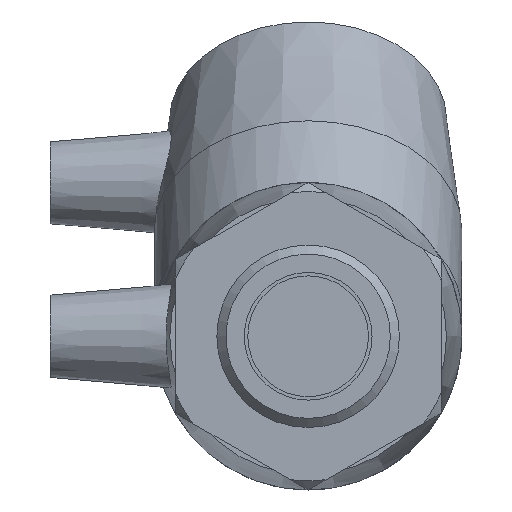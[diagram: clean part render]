
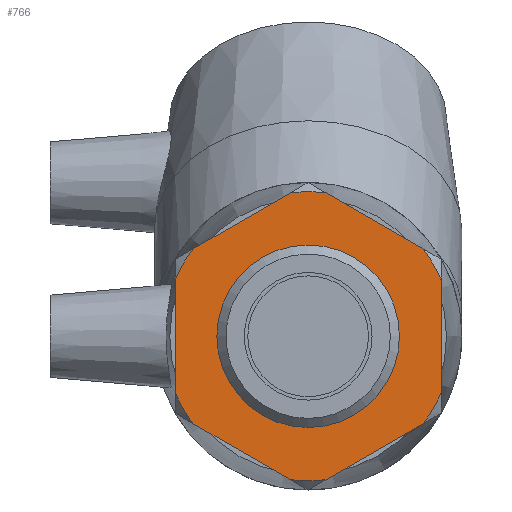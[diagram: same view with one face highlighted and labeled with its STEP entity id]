
A CAD part, left-side view. The second image highlights one B-rep face of the part: STEP entity #766.
In plain terms, the highlighted planar face has unit normal (-1, 0, 0).
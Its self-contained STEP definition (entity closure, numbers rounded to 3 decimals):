
#20=LINE('',#1198,#39);
#24=LINE('',#1222,#43);
#27=LINE('',#1244,#46);
#30=LINE('',#1266,#49);
#35=LINE('',#1303,#54);
#37=LINE('',#1322,#56);
#39=VECTOR('',#952,20.469);
#43=VECTOR('',#958,20.469);
#46=VECTOR('',#963,20.469);
#49=VECTOR('',#968,20.469);
#54=VECTOR('',#975,20.469);
#56=VECTOR('',#979,20.469);
#105=PLANE('',#835);
#126=FACE_BOUND('',#235,.T.);
#170=FACE_OUTER_BOUND('',#234,.T.);
#234=EDGE_LOOP('',(#598,#599,#600,#601,#602,#603,#604,#605,#606,#607,#608,
#609));
#235=EDGE_LOOP('',(#610));
#324=CIRCLE('',#828,16.625);
#325=CIRCLE('',#836,26.32);
#326=CIRCLE('',#837,26.32);
#327=CIRCLE('',#838,26.32);
#328=CIRCLE('',#839,26.32);
#329=CIRCLE('',#840,26.32);
#330=CIRCLE('',#841,26.32);
#374=VERTEX_POINT('',#1189);
#375=VERTEX_POINT('',#1192);
#377=VERTEX_POINT('',#1197);
#383=VERTEX_POINT('',#1217);
#384=VERTEX_POINT('',#1221);
#389=VERTEX_POINT('',#1239);
#390=VERTEX_POINT('',#1243);
#395=VERTEX_POINT('',#1261);
#396=VERTEX_POINT('',#1265);
#402=VERTEX_POINT('',#1284);
#406=VERTEX_POINT('',#1299);
#407=VERTEX_POINT('',#1305);
#410=VERTEX_POINT('',#1318);
#450=EDGE_CURVE('',#374,#374,#324,.T.);
#452=EDGE_CURVE('',#377,#375,#20,.T.);
#460=EDGE_CURVE('',#384,#383,#24,.T.);
#467=EDGE_CURVE('',#390,#389,#27,.T.);
#474=EDGE_CURVE('',#396,#395,#30,.T.);
#486=EDGE_CURVE('',#402,#406,#35,.T.);
#492=EDGE_CURVE('',#407,#410,#37,.T.);
#493=EDGE_CURVE('',#402,#410,#325,.T.);
#494=EDGE_CURVE('',#396,#406,#326,.T.);
#495=EDGE_CURVE('',#390,#395,#327,.T.);
#496=EDGE_CURVE('',#384,#389,#328,.T.);
#497=EDGE_CURVE('',#377,#383,#329,.T.);
#498=EDGE_CURVE('',#407,#375,#330,.T.);
#598=ORIENTED_EDGE('',*,*,#492,.T.);
#599=ORIENTED_EDGE('',*,*,#493,.F.);
#600=ORIENTED_EDGE('',*,*,#486,.T.);
#601=ORIENTED_EDGE('',*,*,#494,.F.);
#602=ORIENTED_EDGE('',*,*,#474,.T.);
#603=ORIENTED_EDGE('',*,*,#495,.F.);
#604=ORIENTED_EDGE('',*,*,#467,.T.);
#605=ORIENTED_EDGE('',*,*,#496,.F.);
#606=ORIENTED_EDGE('',*,*,#460,.T.);
#607=ORIENTED_EDGE('',*,*,#497,.F.);
#608=ORIENTED_EDGE('',*,*,#452,.T.);
#609=ORIENTED_EDGE('',*,*,#498,.F.);
#610=ORIENTED_EDGE('',*,*,#450,.T.);
#766=ADVANCED_FACE('',(#170,#126),#105,.T.);
#828=AXIS2_PLACEMENT_3D('',#1190,#948,#949);
#835=AXIS2_PLACEMENT_3D('',#1323,#980,#981);
#836=AXIS2_PLACEMENT_3D('',#1324,#982,#983);
#837=AXIS2_PLACEMENT_3D('',#1325,#984,#985);
#838=AXIS2_PLACEMENT_3D('',#1326,#986,#987);
#839=AXIS2_PLACEMENT_3D('',#1327,#988,#989);
#840=AXIS2_PLACEMENT_3D('',#1328,#990,#991);
#841=AXIS2_PLACEMENT_3D('',#1329,#992,#993);
#948=DIRECTION('center_axis',(1.,0.,0.));
#949=DIRECTION('ref_axis',(0.,0.,-1.));
#952=DIRECTION('',(0.,0.,-1.));
#958=DIRECTION('',(0.,0.866,-0.5));
#963=DIRECTION('',(0.,0.866,0.5));
#968=DIRECTION('',(0.,0.,1.));
#975=DIRECTION('',(0.,-0.866,0.5));
#979=DIRECTION('',(0.,-0.866,-0.5));
#980=DIRECTION('center_axis',(-1.,0.,0.));
#981=DIRECTION('ref_axis',(0.,0.,1.));
#982=DIRECTION('center_axis',(1.,0.,0.));
#983=DIRECTION('ref_axis',(0.,0.,1.));
#984=DIRECTION('center_axis',(1.,0.,0.));
#985=DIRECTION('ref_axis',(0.,0.,1.));
#986=DIRECTION('center_axis',(1.,0.,0.));
#987=DIRECTION('ref_axis',(0.,0.,1.));
#988=DIRECTION('center_axis',(1.,0.,0.));
#989=DIRECTION('ref_axis',(0.,0.,1.));
#990=DIRECTION('center_axis',(1.,0.,0.));
#991=DIRECTION('ref_axis',(0.,0.,1.));
#992=DIRECTION('center_axis',(1.,0.,0.));
#993=DIRECTION('ref_axis',(0.,0.,1.));
#1189=CARTESIAN_POINT('',(-67.106,0.,-16.625));
#1190=CARTESIAN_POINT('Origin',(-67.106,0.,0.));
#1192=CARTESIAN_POINT('',(-67.106,24.249,-10.234));
#1197=CARTESIAN_POINT('',(-67.106,24.249,10.234));
#1198=CARTESIAN_POINT('',(-67.106,24.249,-21.));
#1217=CARTESIAN_POINT('',(-67.106,20.988,15.883));
#1221=CARTESIAN_POINT('',(-67.106,3.261,26.117));
#1222=CARTESIAN_POINT('',(-67.106,24.249,14.));
#1239=CARTESIAN_POINT('',(-67.106,-3.261,26.117));
#1243=CARTESIAN_POINT('',(-67.106,-20.988,15.883));
#1244=CARTESIAN_POINT('',(-67.106,-12.124,21.));
#1261=CARTESIAN_POINT('',(-67.106,-24.249,10.234));
#1265=CARTESIAN_POINT('',(-67.106,-24.249,-10.234));
#1266=CARTESIAN_POINT('',(-67.106,-24.249,-7.));
#1284=CARTESIAN_POINT('',(-67.106,-3.261,-26.117));
#1299=CARTESIAN_POINT('',(-67.106,-20.988,-15.883));
#1303=CARTESIAN_POINT('',(-67.106,-12.124,-21.));
#1305=CARTESIAN_POINT('',(-67.106,20.988,-15.883));
#1318=CARTESIAN_POINT('',(-67.106,3.261,-26.117));
#1322=CARTESIAN_POINT('',(-67.106,0.,-28.));
#1323=CARTESIAN_POINT('Origin',(-67.106,0.,-28.));
#1324=CARTESIAN_POINT('Origin',(-67.106,0.,0.));
#1325=CARTESIAN_POINT('Origin',(-67.106,0.,0.));
#1326=CARTESIAN_POINT('Origin',(-67.106,0.,0.));
#1327=CARTESIAN_POINT('Origin',(-67.106,0.,0.));
#1328=CARTESIAN_POINT('Origin',(-67.106,0.,0.));
#1329=CARTESIAN_POINT('Origin',(-67.106,0.,0.));
